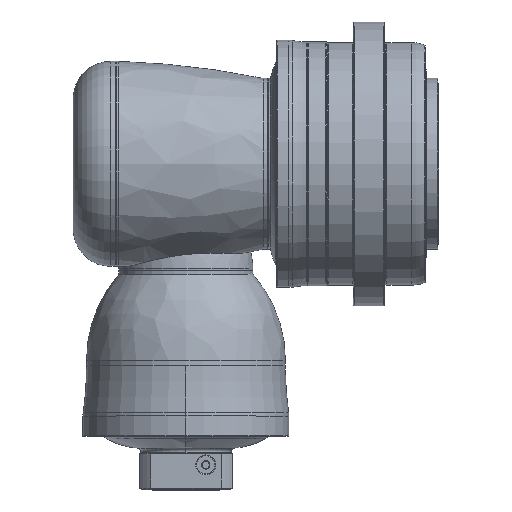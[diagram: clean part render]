
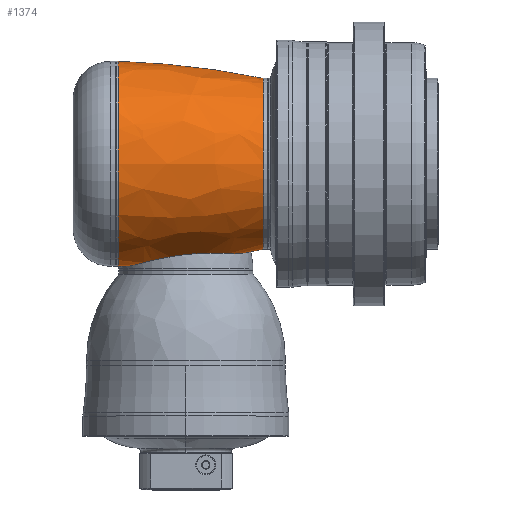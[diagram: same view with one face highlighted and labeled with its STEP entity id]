
A CAD part, top view. The second image highlights one B-rep face of the part: STEP entity #1374.
In plain terms, the highlighted free-form (B-spline) face has degree [3, 3] with [7, 4] control points.
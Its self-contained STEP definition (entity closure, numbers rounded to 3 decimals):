
#172=CARTESIAN_POINT('',(-138.857,1099.364,
0.));
#173=DIRECTION('',(0.,0.,-1.));
#174=DIRECTION('',(0.201,-0.979,0.));
#175=AXIS2_PLACEMENT_3D('',#172,#173,#174);
#182=CARTESIAN_POINT('',(-138.857,-1099.364,
0.));
#183=DIRECTION('',(0.,0.,1.));
#184=DIRECTION('',(0.201,0.979,0.));
#185=AXIS2_PLACEMENT_3D('',#182,#183,#184);
#187=CARTESIAN_POINT('',(-138.857,1099.364,
0.));
#188=DIRECTION('',(0.,0.,-1.));
#189=DIRECTION('',(0.041,-0.999,0.));
#190=AXIS2_PLACEMENT_3D('',#187,#188,#189);
#192=CARTESIAN_POINT('',(113.,0.,0.));
#193=DIRECTION('',(1.,0.,0.));
#194=DIRECTION('',(0.,1.,0.));
#195=AXIS2_PLACEMENT_3D('',#192,#193,#194);
#197=CARTESIAN_POINT('',(-87.976,-149.6,
0.));
#198=CARTESIAN_POINT('',(-86.241,-149.529,3.544));
#199=CARTESIAN_POINT('',(-82.293,-149.11,10.51));
#200=CARTESIAN_POINT('',(-74.783,-147.69,20.488));
#201=CARTESIAN_POINT('',(-66.077,-145.687,29.314));
#202=CARTESIAN_POINT('',(-56.29,-143.305,36.904));
#203=CARTESIAN_POINT('',(-45.531,-140.737,43.157));
#204=CARTESIAN_POINT('',(-33.777,-138.149,48.014));
#205=CARTESIAN_POINT('',(-21.468,-135.788,51.264));
#206=CARTESIAN_POINT('',(-8.904,-133.825,52.852));
#207=CARTESIAN_POINT('',(2.443,-132.473,52.882));
#208=CARTESIAN_POINT('',(12.87,-131.559,51.857));
#209=CARTESIAN_POINT('',(24.353,-130.931,49.458));
#210=CARTESIAN_POINT('',(35.359,-130.692,45.756));
#211=CARTESIAN_POINT('',(45.703,-130.733,40.898));
#212=CARTESIAN_POINT('',(55.063,-130.931,35.118));
#213=CARTESIAN_POINT('',(63.742,-131.164,28.303));
#214=CARTESIAN_POINT('',(71.964,-131.31,20.099));
#215=CARTESIAN_POINT('',(79.444,-131.155,10.316));
#216=CARTESIAN_POINT('',(83.302,-130.737,3.495));
#217=CARTESIAN_POINT('',(84.987,-130.43,0.));
#248=CARTESIAN_POINT('',(-99.,0.,0.));
#249=DIRECTION('',(1.,0.,0.));
#250=DIRECTION('',(0.,1.,0.));
#251=AXIS2_PLACEMENT_3D('',#248,#249,#250);
#1032=CARTESIAN_POINT('',(113.,125.,0.));
#1033=CARTESIAN_POINT('',(-99.,150.,0.));
#1034=VERTEX_POINT('',#1032);
#1035=VERTEX_POINT('',#1033);
#1036=CARTESIAN_POINT('',(113.,-125.,0.));
#1037=VERTEX_POINT('',#1036);
#1038=CARTESIAN_POINT('',(84.987,-130.43,
0.));
#1039=VERTEX_POINT('',#1038);
#1040=CARTESIAN_POINT('',(-87.976,-149.6,
0.));
#1041=CARTESIAN_POINT('',(-99.,-150.,0.));
#1042=VERTEX_POINT('',#1040);
#1043=VERTEX_POINT('',#1041);
#1334=CARTESIAN_POINT('',(-103.273,149.833,
-9.427));
#1335=CARTESIAN_POINT('',(-29.112,147.725,
-9.294));
#1336=CARTESIAN_POINT('',(44.568,139.053,-8.748));
#1337=CARTESIAN_POINT('',(117.185,123.887,-7.794));
#1338=CARTESIAN_POINT('',(-103.273,155.634,82.78));
#1339=CARTESIAN_POINT('',(-29.112,153.444,81.616));
#1340=CARTESIAN_POINT('',(44.568,144.437,76.825));
#1341=CARTESIAN_POINT('',(117.185,128.683,68.445));
#1342=CARTESIAN_POINT('',(-103.273,92.389,150.129));
#1343=CARTESIAN_POINT('',(-29.112,91.089,148.017));
#1344=CARTESIAN_POINT('',(44.568,85.742,139.328));
#1345=CARTESIAN_POINT('',(117.185,76.39,124.132));
#1346=CARTESIAN_POINT('',(-103.273,0.,150.129));
#1347=CARTESIAN_POINT('',(-29.112,0.,
148.017));
#1348=CARTESIAN_POINT('',(44.568,0.,
139.328));
#1349=CARTESIAN_POINT('',(117.185,0.,
124.132));
#1350=CARTESIAN_POINT('',(-103.273,-92.389,
150.129));
#1351=CARTESIAN_POINT('',(-29.112,-91.089,
148.017));
#1352=CARTESIAN_POINT('',(44.568,-85.742,139.328));
#1353=CARTESIAN_POINT('',(117.185,-76.39,124.132));
#1354=CARTESIAN_POINT('',(-103.273,-155.634,
82.78));
#1355=CARTESIAN_POINT('',(-29.112,-153.444,
81.616));
#1356=CARTESIAN_POINT('',(44.568,-144.437,76.825));
#1357=CARTESIAN_POINT('',(117.185,-128.683,68.445));
#1358=CARTESIAN_POINT('',(-103.273,-149.833,
-9.427));
#1359=CARTESIAN_POINT('',(-29.112,-147.725,
-9.294));
#1360=CARTESIAN_POINT('',(44.568,-139.053,
-8.748));
#1361=CARTESIAN_POINT('',(117.185,-123.887,
-7.794));
#1362=(BOUNDED_SURFACE()B_SPLINE_SURFACE(3,3,((#1334,#1335,#1336,#1337),(#1338,
#1339,#1340,#1341),(#1342,#1343,#1344,#1345),(#1346,#1347,#1348,#1349),(#1350,
#1351,#1352,#1353),(#1354,#1355,#1356,#1357),(#1358,#1359,#1360,#1361)),
.UNSPECIFIED.,.F.,.F.,.F.)B_SPLINE_SURFACE_WITH_KNOTS((4,3,4),(4,4),(0.,1.,
2.),(0.,1.),.UNSPECIFIED.)GEOMETRIC_REPRESENTATION_ITEM()RATIONAL_B_SPLINE_SURFACE(((1.19,1.186,1.186,1.19),(
0.939,0.937,0.937,0.939),(
0.939,0.937,0.937,0.939),(
1.19,1.186,1.186,1.19),(
0.939,0.937,0.937,0.939),(
0.939,0.937,0.937,0.939),(
1.19,1.186,1.186,1.19)))REPRESENTATION_ITEM('')SURFACE());
#1363=ORIENTED_EDGE('',*,*,#1316,.T.);
#1365=ORIENTED_EDGE('',*,*,#1364,.F.);
#1366=ORIENTED_EDGE('',*,*,#1324,.T.);
#1368=ORIENTED_EDGE('',*,*,#1367,.F.);
#1369=ORIENTED_EDGE('',*,*,#1320,.F.);
#1371=ORIENTED_EDGE('',*,*,#1370,.T.);
#1372=EDGE_LOOP('',(#1363,#1365,#1366,#1368,#1369,#1371));
#1373=FACE_OUTER_BOUND('',#1372,.F.);
#1374=ADVANCED_FACE('',(#1373),#1362,.T.);
#176=CIRCLE('',#175,1250.);
#186=CIRCLE('',#185,1250.);
#191=CIRCLE('',#190,1250.);
#196=CIRCLE('',#195,125.);
#218=B_SPLINE_CURVE_WITH_KNOTS('',3,(#197,#198,#199,#200,#201,#202,#203,#204,
#205,#206,#207,#208,#209,#210,#211,#212,#213,#214,#215,#216,#217),.UNSPECIFIED.,
.F.,.F.,(4,1,1,1,1,1,1,1,1,1,1,1,1,1,1,1,1,1,4),(0.,0.056,
0.111,0.167,0.222,0.278,
0.333,0.389,0.444,0.5,0.556,
0.611,0.667,0.722,0.778,
0.833,0.889,0.944,1.),.UNSPECIFIED.);
#252=CIRCLE('',#251,150.);
#1316=EDGE_CURVE('',#1037,#1039,#176,.T.);
#1320=EDGE_CURVE('',#1034,#1035,#186,.T.);
#1324=EDGE_CURVE('',#1042,#1043,#191,.T.);
#1364=EDGE_CURVE('',#1042,#1039,#218,.T.);
#1367=EDGE_CURVE('',#1035,#1043,#252,.T.);
#1370=EDGE_CURVE('',#1034,#1037,#196,.T.);
